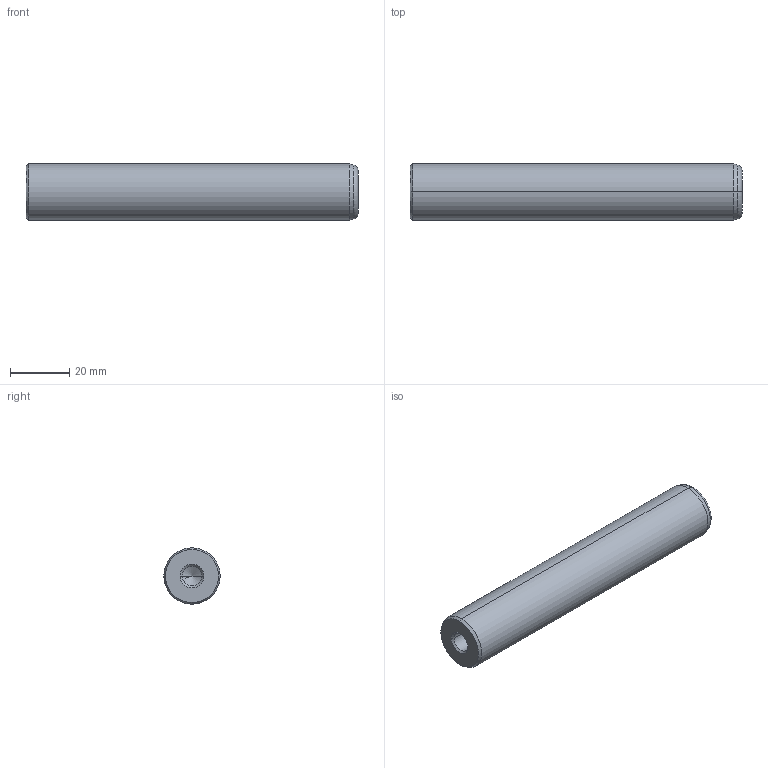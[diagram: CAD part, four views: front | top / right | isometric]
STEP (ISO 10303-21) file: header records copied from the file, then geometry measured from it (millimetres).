
FILE_DESCRIPTION(('CATIA V5 STEP Exchange'),'2;1');
FILE_NAME('C:\Users\Utente\Desktop\IO LAVORO\3D X SITO CF\X SITO\720\720-19x112.stp','2021-01-01T13:09:15+00:00',('none'),('none'),'CATIA Version 5 Release 20 GA (IN-10)','CATIA V5 STEP AP203','none');
FILE_SCHEMA(('CONFIG_CONTROL_DESIGN'));
Length unit declared in the file: millimetre
Products named in the file (1): 720-19x112
Bounding box: 112 x 19 x 19 mm (x, y, z)
Volume: 29924.2 mm3; surface area: 8150.5 mm2
Topology: 1 solids, 1 shells, 22 faces, 62 edges, 40 vertices
Faces by surface type: cone 12, cylinder 6, plane 2, torus 2
Entity records: 806 total; most frequent: CARTESIAN_POINT 229, ORIENTED_EDGE 116, DIRECTION 93, EDGE_CURVE 58, AXIS2_PLACEMENT_3D 54, VERTEX_POINT 40, CIRCLE 31, EDGE_LOOP 24
